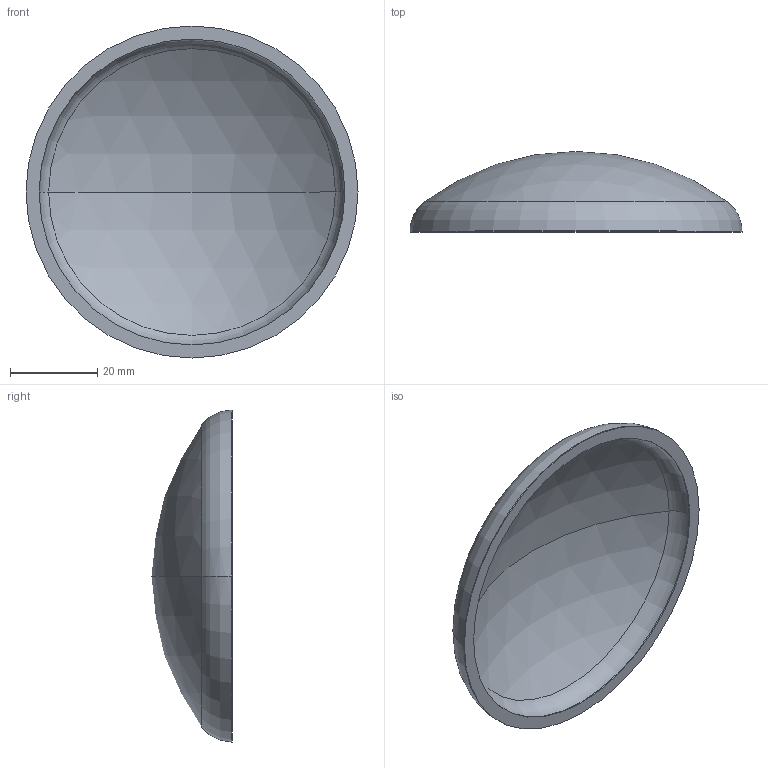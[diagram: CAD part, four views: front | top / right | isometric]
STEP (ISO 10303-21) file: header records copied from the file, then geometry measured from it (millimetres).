
FILE_DESCRIPTION (( 'STEP AP203' ), '1' );
FILE_NAME ('3D_R365_76.1x3_173371780.STEP', '2024-07-16T06:39:13', ( '' ), ( '' ), 'SwSTEP 2.0', 'SolidWorks 2024', '' );
FILE_SCHEMA (( 'CONFIG_CONTROL_DESIGN' ));
Length unit declared in the file: millimetre
Products named in the file (1): 3D_R365_76.1x3_173371780
Bounding box: 76.1 x 18.5 x 76.1 mm (x, y, z)
Volume: 16420.5 mm3; surface area: 11654.8 mm2
Topology: 1 solids, 1 shells, 13 faces, 24 edges, 14 vertices
Faces by surface type: sphere 4, torus 4, cylinder 4, plane 1
Entity records: 407 total; most frequent: DIRECTION 72, CARTESIAN_POINT 52, ORIENTED_EDGE 48, AXIS2_PLACEMENT_3D 34, EDGE_CURVE 24, CIRCLE 20, EDGE_LOOP 14, VERTEX_POINT 14
